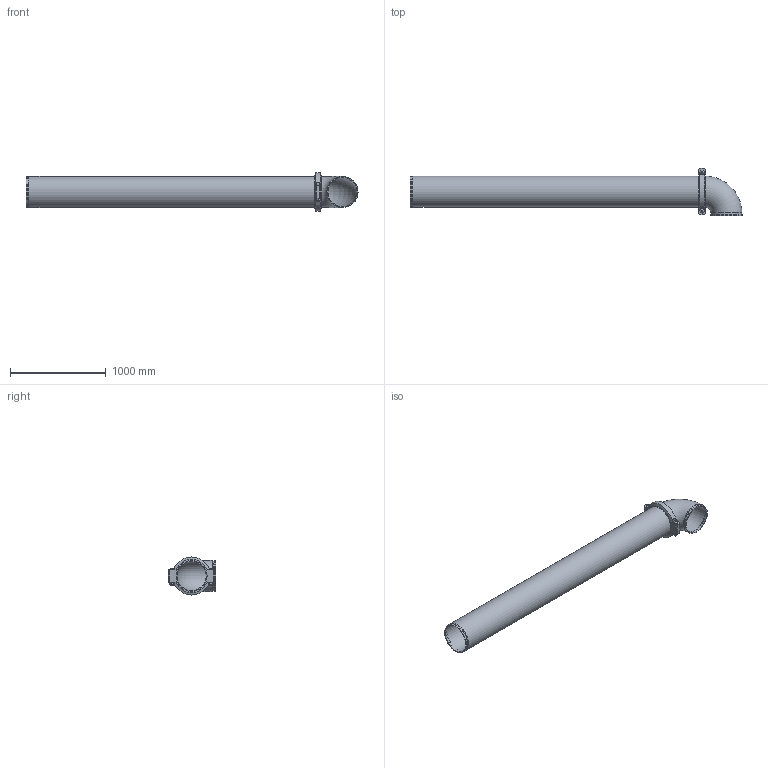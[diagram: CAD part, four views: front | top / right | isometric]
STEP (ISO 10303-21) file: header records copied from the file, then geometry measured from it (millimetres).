
FILE_DESCRIPTION(/* description */ ('VIC LONG RUN FITTING No R23 (OGS)','CAx-IF Rec.Pracs.---Representation and Presentation of Product Manufacturing Information (PMI)---4.0---2014-10-13'),/* implementation_level */ '2;1');
FILE_NAME(/* name */ 'C:\Users\Vjadhav\AppData\Roaming\Autodesk\ApplicationPlugins\Back Up\Victaulic_IPS_Long Run Fittings_No R23 (OGS)\Victaulic_IPS_Long Run Fittings_No R23 (OGS)_12 (300).stp',/* time_stamp */ '2020-10-06T20:02:16+06:00',/* author */ ('Vjadhav'),/* organization */ ('Victaulic'),/* preprocessor_version */ 'ST-DEVELOPER v17.2',/* originating_system */ 'Autodesk Inventor 2019',/* authorisation */ '');
FILE_SCHEMA (('AP242_MANAGED_MODEL_BASED_3D_ENGINEERING_MIM_LF { 1 0 10303 442 1 1 4 }'));
Length unit declared in the file: inch
Products named in the file (4): R23-12.0; 010-12.0; Pipe_R13-12.0; 077-12.0
Assembly tree (3 placements, depth 2):
  R23-12.0
    010-12.0
    Pipe_R13-12.0
    077-12.0
Bounding box: 3467.23 x 498.48 x 397 mm (x, y, z)
Volume: 35777553.2 mm3; surface area: 7206244.1 mm2
Topology: 3 solids, 5 shells, 87 faces, 205 edges, 144 vertices
Faces by surface type: plane 48, cylinder 31, cone 4, torus 2, bspline 2
Full cylindrical faces by diameter (mm): 25.4 x4, 27.432 x2, 304.8 x3, 314.96 x1, 318.287 x4, 323.85 x7
Entity records: 3255 total; most frequent: CARTESIAN_POINT 911, DIRECTION 457, ORIENTED_EDGE 410, EDGE_CURVE 205, AXIS2_PLACEMENT_3D 184, VERTEX_POINT 144, EDGE_LOOP 113, CIRCLE 92
